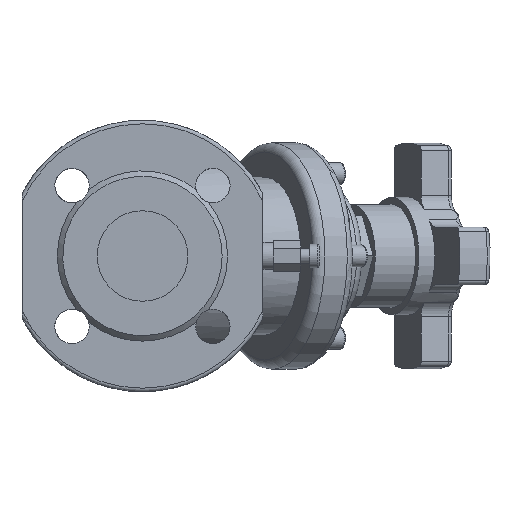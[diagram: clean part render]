
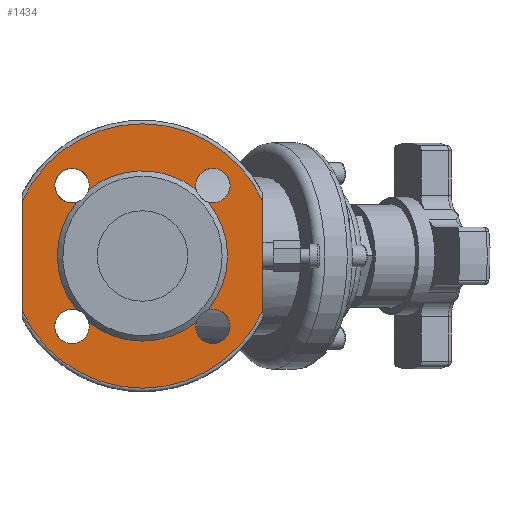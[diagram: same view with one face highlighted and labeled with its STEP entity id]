
A CAD part, left-side view. The second image highlights one B-rep face of the part: STEP entity #1434.
In plain terms, the highlighted planar face has unit normal (-1, 0, 0).
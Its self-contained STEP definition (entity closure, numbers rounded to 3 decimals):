
#1434=ADVANCED_FACE('',(#8495,#8497),#8499,.F.);
#8495=FACE_BOUND('',#8496,.T.);
#8496=EDGE_LOOP('',(#10005,#10006,#10007,#10008));
#8497=FACE_BOUND('',#8498,.T.);
#8498=EDGE_LOOP('',(#10009,#10010,#10011,#10012,#10013,#10014,#10015,#10016,#10017,
#10018,#10019,#10020,#10021));
#8499=PLANE('',#8500);
#8500=AXIS2_PLACEMENT_3D('',#8501,#8502,#8503);
#8501=CARTESIAN_POINT('',(19150.629,1591.446,0.));
#8502=DIRECTION('',(1.,0.,0.));
#8503=DIRECTION('',(0.,0.,1.));
#10005=ORIENTED_EDGE('',*,*,#10907,.F.);
#10006=ORIENTED_EDGE('',*,*,#10533,.T.);
#10007=ORIENTED_EDGE('',*,*,#10909,.F.);
#10008=ORIENTED_EDGE('',*,*,#10903,.T.);
#10009=ORIENTED_EDGE('',*,*,#10910,.F.);
#10010=ORIENTED_EDGE('',*,*,#10911,.F.);
#10011=ORIENTED_EDGE('',*,*,#10912,.F.);
#10012=ORIENTED_EDGE('',*,*,#10913,.F.);
#10013=ORIENTED_EDGE('',*,*,#10914,.F.);
#10014=ORIENTED_EDGE('',*,*,#10915,.F.);
#10015=ORIENTED_EDGE('',*,*,#10916,.F.);
#10016=ORIENTED_EDGE('',*,*,#10917,.F.);
#10017=ORIENTED_EDGE('',*,*,#10918,.F.);
#10018=ORIENTED_EDGE('',*,*,#10919,.F.);
#10019=ORIENTED_EDGE('',*,*,#10920,.F.);
#10020=ORIENTED_EDGE('',*,*,#10921,.F.);
#10021=ORIENTED_EDGE('',*,*,#10922,.F.);
#10533=EDGE_CURVE('',#11219,#11217,#11220,.T.);
#10903=EDGE_CURVE('',#11835,#11833,#11836,.T.);
#10907=EDGE_CURVE('',#11219,#11833,#11842,.T.);
#10909=EDGE_CURVE('',#11835,#11217,#11844,.T.);
#10910=EDGE_CURVE('',#11845,#11846,#11847,.T.);
#10911=EDGE_CURVE('',#11848,#11845,#11849,.T.);
#10912=EDGE_CURVE('',#11850,#11848,#11851,.T.);
#10913=EDGE_CURVE('',#11852,#11850,#11853,.T.);
#10914=EDGE_CURVE('',#11854,#11852,#11855,.T.);
#10915=EDGE_CURVE('',#11856,#11854,#11857,.T.);
#10916=EDGE_CURVE('',#11858,#11856,#11859,.T.);
#10917=EDGE_CURVE('',#11860,#11858,#11861,.T.);
#10918=EDGE_CURVE('',#11862,#11860,#11863,.T.);
#10919=EDGE_CURVE('',#11864,#11862,#11865,.T.);
#10920=EDGE_CURVE('',#11866,#11864,#11867,.T.);
#10921=EDGE_CURVE('',#11868,#11866,#11869,.T.);
#10922=EDGE_CURVE('',#11846,#11868,#11870,.T.);
#11217=VERTEX_POINT('',#13064);
#11219=VERTEX_POINT('',#13158);
#11220=LINE('',#13159,#13160);
#11833=VERTEX_POINT('',#16346);
#11835=VERTEX_POINT('',#16440);
#11836=LINE('',#16441,#16442);
#11842=CIRCLE('',#16616,73.);
#11844=CIRCLE('',#16624,73.);
#11845=VERTEX_POINT('',#16628);
#11846=VERTEX_POINT('',#16629);
#11847=CIRCLE('',#16630,9.5);
#11848=VERTEX_POINT('',#16634);
#11849=CIRCLE('',#16635,9.5);
#11850=VERTEX_POINT('',#16639);
#11851=CIRCLE('',#16640,47.);
#11852=VERTEX_POINT('',#16644);
#11853=CIRCLE('',#16645,47.);
#11854=VERTEX_POINT('',#16649);
#11855=CIRCLE('',#16650,9.5);
#11856=VERTEX_POINT('',#16654);
#11857=CIRCLE('',#16655,9.5);
#11858=VERTEX_POINT('',#16659);
#11859=CIRCLE('',#16660,47.);
#11860=VERTEX_POINT('',#16664);
#11861=CIRCLE('',#16665,9.5);
#11862=VERTEX_POINT('',#16669);
#11863=CIRCLE('',#16670,9.5);
#11864=VERTEX_POINT('',#16674);
#11865=CIRCLE('',#16675,47.);
#11866=VERTEX_POINT('',#16679);
#11867=CIRCLE('',#16680,9.5);
#11868=VERTEX_POINT('',#16684);
#11869=CIRCLE('',#16685,9.5);
#11870=CIRCLE('',#16689,47.);
#13064=CARTESIAN_POINT('',(19150.629,1599.946,30.112));
#13158=CARTESIAN_POINT('',(19150.629,1599.946,-30.112));
#13159=CARTESIAN_POINT('',(19150.629,1599.946,-30.112));
#13160=VECTOR('',#13161,1.);
#13161=DIRECTION('',(0.,0.,1.));
#16346=CARTESIAN_POINT('',(19150.629,1732.946,-30.112));
#16440=CARTESIAN_POINT('',(19150.629,1732.946,30.112));
#16441=CARTESIAN_POINT('',(19150.629,1732.946,30.112));
#16442=VECTOR('',#16443,1.);
#16443=DIRECTION('',(0.,0.,-1.));
#16616=AXIS2_PLACEMENT_3D('',#16617,#16618,#16619);
#16617=CARTESIAN_POINT('',(19150.629,1666.446,0.));
#16618=DIRECTION('',(1.,0.,0.));
#16619=DIRECTION('',(0.,-0.911,-0.412));
#16624=AXIS2_PLACEMENT_3D('',#16625,#16626,#16627);
#16625=CARTESIAN_POINT('',(19150.629,1666.446,0.));
#16626=DIRECTION('',(1.,0.,0.));
#16627=DIRECTION('',(0.,0.911,0.412));
#16628=CARTESIAN_POINT('',(19150.629,1711.111,31.347));
#16629=CARTESIAN_POINT('',(19150.629,1702.856,29.721));
#16630=AXIS2_PLACEMENT_3D('',#16631,#16632,#16633);
#16631=CARTESIAN_POINT('',(19150.629,1705.337,38.891));
#16632=DIRECTION('',(-1.,0.,0.));
#16633=DIRECTION('',(0.,0.608,-0.794));
#16634=CARTESIAN_POINT('',(19150.629,1696.166,36.41));
#16635=AXIS2_PLACEMENT_3D('',#16636,#16637,#16638);
#16636=CARTESIAN_POINT('',(19150.629,1705.337,38.891));
#16637=DIRECTION('',(-1.,0.,0.));
#16638=DIRECTION('',(0.,-0.965,-0.261));
#16639=CARTESIAN_POINT('',(19150.629,1646.295,42.461));
#16640=AXIS2_PLACEMENT_3D('',#16641,#16642,#16643);
#16641=CARTESIAN_POINT('',(19150.629,1666.446,0.));
#16642=DIRECTION('',(-1.,0.,0.));
#16643=DIRECTION('',(0.,-0.429,0.903));
#16644=CARTESIAN_POINT('',(19150.629,1636.725,36.41));
#16645=AXIS2_PLACEMENT_3D('',#16646,#16647,#16648);
#16646=CARTESIAN_POINT('',(19150.629,1666.446,0.));
#16647=DIRECTION('',(-1.,0.,0.));
#16648=DIRECTION('',(0.,-0.632,0.775));
#16649=CARTESIAN_POINT('',(19150.629,1636.972,37.64));
#16650=AXIS2_PLACEMENT_3D('',#16651,#16652,#16653);
#16651=CARTESIAN_POINT('',(19150.629,1627.555,38.891));
#16652=DIRECTION('',(-1.,0.,0.));
#16653=DIRECTION('',(0.,0.991,-0.132));
#16654=CARTESIAN_POINT('',(19150.629,1630.036,29.721));
#16655=AXIS2_PLACEMENT_3D('',#16656,#16657,#16658);
#16656=CARTESIAN_POINT('',(19150.629,1627.555,38.891));
#16657=DIRECTION('',(-1.,0.,0.));
#16658=DIRECTION('',(0.,0.261,-0.965));
#16659=CARTESIAN_POINT('',(19150.629,1630.036,-29.721));
#16660=AXIS2_PLACEMENT_3D('',#16661,#16662,#16663);
#16661=CARTESIAN_POINT('',(19150.629,1666.446,0.));
#16662=DIRECTION('',(-1.,0.,0.));
#16663=DIRECTION('',(0.,-0.775,-0.632));
#16664=CARTESIAN_POINT('',(19150.629,1620.011,-44.665));
#16665=AXIS2_PLACEMENT_3D('',#16666,#16667,#16668);
#16666=CARTESIAN_POINT('',(19150.629,1627.555,-38.891));
#16667=DIRECTION('',(-1.,0.,0.));
#16668=DIRECTION('',(0.,-0.794,-0.608));
#16669=CARTESIAN_POINT('',(19150.629,1636.725,-36.41));
#16670=AXIS2_PLACEMENT_3D('',#16671,#16672,#16673);
#16671=CARTESIAN_POINT('',(19150.629,1627.555,-38.891));
#16672=DIRECTION('',(-1.,0.,0.));
#16673=DIRECTION('',(0.,0.965,0.261));
#16674=CARTESIAN_POINT('',(19150.629,1696.166,-36.41));
#16675=AXIS2_PLACEMENT_3D('',#16676,#16677,#16678);
#16676=CARTESIAN_POINT('',(19150.629,1666.446,0.));
#16677=DIRECTION('',(-1.,0.,0.));
#16678=DIRECTION('',(0.,0.632,-0.775));
#16679=CARTESIAN_POINT('',(19150.629,1704.086,-48.308));
#16680=AXIS2_PLACEMENT_3D('',#16681,#16682,#16683);
#16681=CARTESIAN_POINT('',(19150.629,1705.337,-38.891));
#16682=DIRECTION('',(-1.,0.,0.));
#16683=DIRECTION('',(0.,-0.132,-0.991));
#16684=CARTESIAN_POINT('',(19150.629,1702.856,-29.721));
#16685=AXIS2_PLACEMENT_3D('',#16686,#16687,#16688);
#16686=CARTESIAN_POINT('',(19150.629,1705.337,-38.891));
#16687=DIRECTION('',(-1.,0.,0.));
#16688=DIRECTION('',(0.,-0.261,0.965));
#16689=AXIS2_PLACEMENT_3D('',#16690,#16691,#16692);
#16690=CARTESIAN_POINT('',(19150.629,1666.446,0.));
#16691=DIRECTION('',(-1.,0.,0.));
#16692=DIRECTION('',(0.,0.775,0.632));
